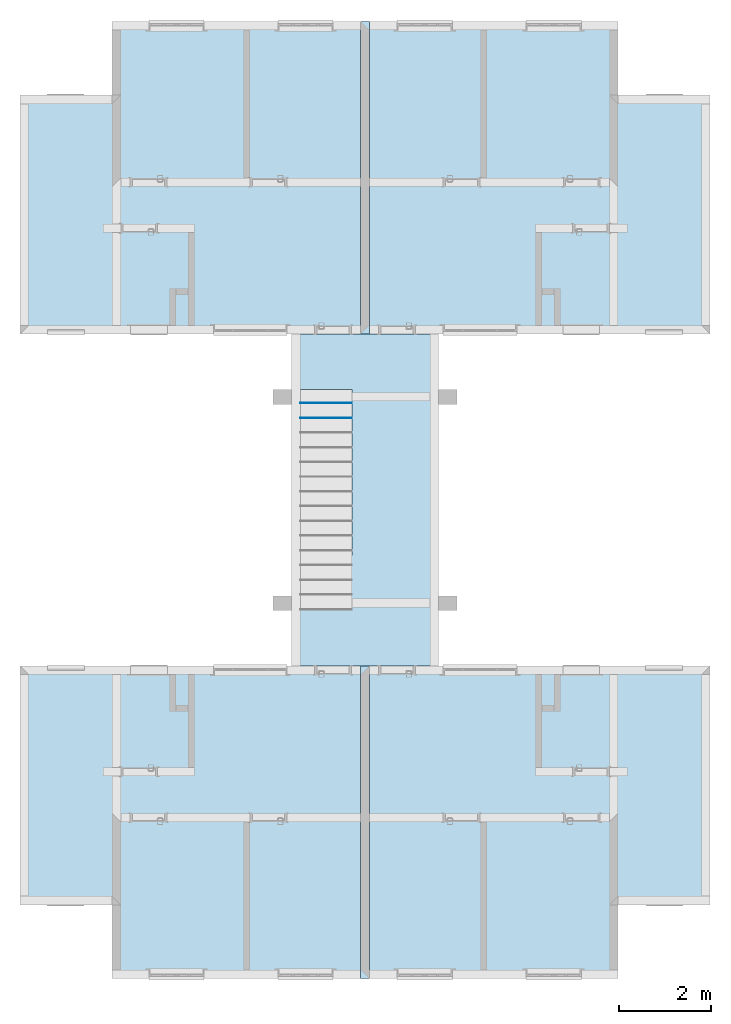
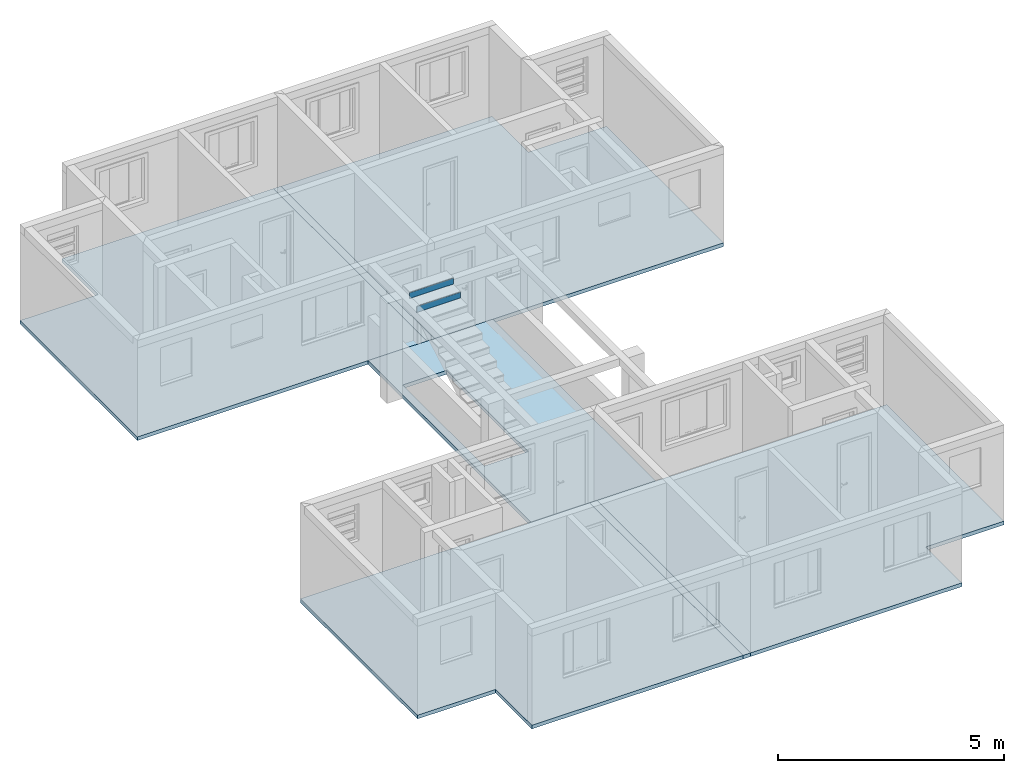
# One storey, part 2 of 47: 7 slabs, 2 members, 1 element without a shape of its own.
"""IFC2X3 building model written with IfcOpenShell, lengths in millimetres."""

from ifc_helpers import new_model, entity, si_unit, converted_unit, derived_unit, money_unit, direction, frame, origin_with_axes, place, context, subcontext, project, spatial, polyline, outline, extrude, faceted_brep, material, layer, layer_set, layer_usage, type_object, element, aggregate, save


model = new_model("IFC2X3")

# Units and contexts
model_context = context("Model", 3, precision=0.01, world=origin_with_axes(), true_north=direction((0.0, 1.0)))
body_context = subcontext(model_context, "Body", "Model", "MODEL_VIEW")
ifc_project = project(units=[si_unit("LENGTHUNIT", "METRE", prefix="MILLI"), si_unit("AREAUNIT", "SQUARE_METRE"), si_unit("VOLUMEUNIT", "CUBIC_METRE"), converted_unit("PLANEANGLEUNIT", "DEGREE", entity("IfcPlaneAngleMeasure", 0.0174532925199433), si_unit("PLANEANGLEUNIT", "RADIAN"), dimensions=[0, 0, 0, 0, 0, 0, 0]), money_unit("USD"), converted_unit("TIMEUNIT", "Year", entity("IfcTimeMeasure", 31557600.0), si_unit("TIMEUNIT", "SECOND"), dimensions=[0, 0, 1, 0, 0, 0, 0]), si_unit("MASSUNIT", "GRAM", prefix="KILO"), si_unit("THERMODYNAMICTEMPERATUREUNIT", "DEGREE_CELSIUS"), si_unit("LUMINOUSINTENSITYUNIT", "LUMEN"), si_unit("ENERGYUNIT", "JOULE", prefix="MEGA"), derived_unit("THERMALCONDUCTANCEUNIT", [(si_unit("POWERUNIT", "WATT"), 1), (si_unit("LENGTHUNIT", "METRE"), -1), (si_unit("THERMODYNAMICTEMPERATUREUNIT", "KELVIN"), -1)]), derived_unit("SPECIFICHEATCAPACITYUNIT", [(si_unit("ENERGYUNIT", "JOULE"), 1), (si_unit("MASSUNIT", "GRAM", prefix="KILO"), -1), (si_unit("THERMODYNAMICTEMPERATUREUNIT", "KELVIN"), -1)]), derived_unit("MASSDENSITYUNIT", [(si_unit("MASSUNIT", "GRAM", prefix="KILO"), 1), (si_unit("VOLUMEUNIT", "CUBIC_METRE"), -1)])], contexts=[model_context])

# Site, building, storey
site_placement = place(None, origin_with_axes())
site = spatial("IfcSite", under=ifc_project, at=site_placement, Name="Local", CompositionType="ELEMENT")
building_placement = place(site_placement, origin_with_axes())
building = spatial("IfcBuilding", under=site, at=building_placement, Name="Construção", CompositionType="ELEMENT")
storey_placement = place(building_placement, origin_with_axes())
storey = spatial("IfcBuildingStorey", under=building, at=storey_placement, Name="Pavimento Tipo", CompositionType="ELEMENT", Elevation=0.0)

# Stair, members
stair_placement = place(storey_placement, frame((-457.4330024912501, 6396.981417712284, 0.0), z_axis=(0.0, 0.0, 1.0), x_axis=(1.0, 0.0, 0.0)))
stair = element("IfcStair", 1, at=stair_placement, inside=storey, Name="Núcleo - Escada - 001", ShapeType="NOTDEFINED")
ifc_material_1 = material(Name="Madeira")
member_type = type_object("IfcMemberType", Name="IfcMember", PredefinedType="USERDEFINED")
member_1_placement = place(stair_placement, frame((560.0000000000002, 4160.0, 2495.0), z_axis=(0.0, 0.0, 1.0), x_axis=(1.0, 0.0, 0.0)))
member_1 = element("IfcMember", 2, at=member_1_placement, type_object=member_type, material=ifc_material_1, Name="Núcleo - Espelho Esc. - 017", ObjectType="Stair Riser", context=body_context, shape_type="Brep", body=[
    faceted_brep([(560.0, 15.0, 0.0), (560.0, 25.0, 0.0), (-560.0, 25.0, 0.0), (-560.0, 15.0, 0.0), (560.0, 15.00000000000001, -155.0), (560.0, 25.00000000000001, -155.0), (-560.0, 25.00000000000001, -155.0), (-560.0, 15.00000000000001, -155.0)], [[[0, 1, 2, 3]], [[0, 4, 5, 1]], [[1, 5, 6, 2]], [[3, 2, 6, 7]], [[4, 0, 3, 7]], [[5, 4, 7, 6]]]),
])
member_2_placement = place(stair_placement, frame((560.0000000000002, 4480.0, 2675.0), z_axis=(0.0, 0.0, 1.0), x_axis=(1.0, 0.0, 0.0)))
member_2 = element("IfcMember", 3, at=member_2_placement, type_object=member_type, material=ifc_material_1, Name="Núcleo - Espelho Esc. - 017", ObjectType="Stair Riser", context=body_context, shape_type="Brep", body=[
    faceted_brep([(560.0, 15.0, 0.0), (560.0, 25.0, 0.0), (-560.0, 25.0, 0.0), (-560.0, 15.0, 0.0), (560.0, 15.00000000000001, -155.0), (560.0, 25.00000000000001, -155.0), (-560.0, 25.00000000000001, -155.0), (-560.0, 15.00000000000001, -155.0)], [[[0, 1, 2, 3]], [[0, 4, 5, 1]], [[1, 5, 6, 2]], [[3, 2, 6, 7]], [[4, 0, 3, 7]], [[5, 4, 7, 6]]]),
])
aggregate(stair, [member_1, member_2])

# Slabs
ifc_material_2 = material(Name="Concreto")
ifc_layer = layer(ifc_material_2, 100.0, ventilated="UNKNOWN")
ifc_layer_set = layer_set([ifc_layer], Name="Concreto 100")
ifc_layer_usage_1 = layer_usage(ifc_layer_set, "AXIS3", "NEGATIVE", 100.0)
slab_type = type_object("IfcSlabType", Name="Concreto 100", PredefinedType="NOTDEFINED")
slab_1_placement = place(storey_placement, frame((1042.56699750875, 12396.98141771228, 0.0), z_axis=(0.0, 0.0, 1.0), x_axis=(1.0, 0.0, 0.0)))
element("IfcSlab", 4, at=slab_1_placement, inside=storey, type_object=slab_type, material=ifc_layer_usage_1, Name="Apartamento 1 - L05", PredefinedType="NOTDEFINED", context=body_context, shape_type="SweptSolid", body=[
    extrude(outline(polyline([(0.0, 0.0), (7396.450516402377, 0.0), (7396.450516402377, 5190.000047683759), (5399.999999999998, 5190.000047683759), (5399.999999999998, 6789.999958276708), (0.0, 6789.999958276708), (0.0, 0.0)])), frame((0.0, 0.0, -100.0), z_axis=(0.0, 0.0, 1.0), x_axis=(1.0, 0.0, 0.0)), (0.0, 0.0, 1.0), 100.0),
])
ifc_layer_usage_2 = layer_usage(ifc_layer_set, "AXIS3", "NEGATIVE", 100.0)
slab_2_placement = place(storey_placement, frame((852.5669975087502, 12396.98141771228, 0.0), z_axis=(0.0, 0.0, 1.0), x_axis=(1.0, 0.0, 0.0)))
element("IfcSlab", 5, at=slab_2_placement, inside=storey, type_object=slab_type, material=ifc_layer_usage_2, Name="Apartamentos 1 e 2 - L03", PredefinedType="NOTDEFINED", context=body_context, shape_type="SweptSolid", body=[
    extrude(outline(polyline([(0.0, 0.0), (189.9999999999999, 0.0), (189.9999999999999, 6789.999999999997), (0.0, 6789.999999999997), (0.0, 0.0)])), frame((0.0, 0.0, -100.0), z_axis=(0.0, 0.0, 1.0), x_axis=(1.0, 0.0, 0.0)), (0.0, 0.0, 1.0), 100.0),
])
ifc_layer_usage_3 = layer_usage(ifc_layer_set, "AXIS3", "NEGATIVE", 100.0)
slab_3_placement = place(storey_placement, frame((852.5669975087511, 12396.98141771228, 0.0), z_axis=(0.0, 0.0, 1.0), x_axis=(1.0, 0.0, 0.0)))
element("IfcSlab", 6, at=slab_3_placement, inside=storey, type_object=slab_type, material=ifc_layer_usage_3, Name="Apartamento 2 - L05", PredefinedType="NOTDEFINED", context=body_context, shape_type="SweptSolid", body=[
    extrude(outline(polyline([(0.0, 0.0), (0.0, 6789.999958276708), (-5399.999999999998, 6789.999958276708), (-5399.999999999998, 5190.000047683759), (-7396.450516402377, 5190.000047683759), (-7396.450516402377, 0.0), (0.0, 0.0)])), frame((0.0, 0.0, -100.0), z_axis=(0.0, 0.0, 1.0), x_axis=(1.0, 0.0, 0.0)), (0.0, 0.0, 1.0), 100.0),
])
ifc_layer_usage_4 = layer_usage(ifc_layer_set, "AXIS3", "NEGATIVE", 100.0)
slab_4_placement = place(storey_placement, frame((852.5669975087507, 5186.981417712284, 0.0), z_axis=(0.0, 0.0, 1.0), x_axis=(1.0, 0.0, 0.0)))
element("IfcSlab", 7, at=slab_4_placement, inside=storey, type_object=slab_type, material=ifc_layer_usage_4, Name="Apartamento 3 - L05", PredefinedType="NOTDEFINED", context=body_context, shape_type="SweptSolid", body=[
    extrude(outline(polyline([(0.0, 0.0), (-7396.450516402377, 0.0), (-7396.450516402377, -5190.000047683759), (-5399.999999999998, -5190.000047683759), (-5399.999999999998, -6789.999958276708), (0.0, -6789.999958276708), (0.0, 0.0)])), frame((0.0, 0.0, -100.0), z_axis=(0.0, 0.0, 1.0), x_axis=(1.0, 0.0, 0.0)), (0.0, 0.0, 1.0), 100.0),
])
ifc_layer_usage_5 = layer_usage(ifc_layer_set, "AXIS3", "NEGATIVE", 100.0)
slab_5_placement = place(storey_placement, frame((1042.56699750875, 5186.981417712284, 0.0), z_axis=(0.0, 0.0, 1.0), x_axis=(1.0, 0.0, 0.0)))
element("IfcSlab", 8, at=slab_5_placement, inside=storey, type_object=slab_type, material=ifc_layer_usage_5, Name="Apartamento 4 - L05", PredefinedType="NOTDEFINED", context=body_context, shape_type="SweptSolid", body=[
    extrude(outline(polyline([(0.0, 0.0), (0.0, -6789.999958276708), (5399.999999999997, -6789.999958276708), (5399.999999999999, -5190.000047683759), (7396.450516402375, -5190.000047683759), (7396.450516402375, 0.0), (0.0, 0.0)])), frame((0.0, 0.0, -100.0), z_axis=(0.0, 0.0, 1.0), x_axis=(1.0, 0.0, 0.0)), (0.0, 0.0, 1.0), 100.0),
])
ifc_layer_usage_6 = layer_usage(ifc_layer_set, "AXIS3", "NEGATIVE", 100.0)
slab_6_placement = place(storey_placement, frame((1042.566997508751, 5186.981417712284, 0.0), z_axis=(0.0, 0.0, 1.0), x_axis=(1.0, 0.0, 0.0)))
element("IfcSlab", 9, at=slab_6_placement, inside=storey, type_object=slab_type, material=ifc_layer_usage_6, Name="Apartamentos 3 e 4 - L03", PredefinedType="NOTDEFINED", context=body_context, shape_type="SweptSolid", body=[
    extrude(outline(polyline([(0.0, 0.0), (-189.9999999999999, 0.0), (-190.0000000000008, -6789.999999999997), (0.0, -6789.999999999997), (0.0, 0.0)])), frame((0.0, 0.0, -100.0), z_axis=(0.0, 0.0, 1.0), x_axis=(1.0, 0.0, 0.0)), (0.0, 0.0, 1.0), 100.0),
])
ifc_layer_usage_7 = layer_usage(ifc_layer_set, "AXIS3", "NEGATIVE", 100.0)
slab_7_placement = place(storey_placement, frame((-647.4330024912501, 5186.981417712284, 0.0), z_axis=(0.0, 0.0, 1.0), x_axis=(1.0, 0.0, 0.0)))
element("IfcSlab", 10, at=slab_7_placement, inside=storey, type_object=slab_type, material=ifc_layer_usage_7, Name="Núcleo - L05", PredefinedType="NOTDEFINED", context=body_context, shape_type="SweptSolid", body=[
    extrude(outline(polyline([(0.0, 0.0), (3190.0, 0.0), (3190.0, 7210.0), (0.0, 7210.0), (0.0, 0.0)]), holes=[polyline([(1310.0, 2400.000000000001), (190.0000000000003, 2400.000000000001), (190.0000000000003, 6009.999999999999), (1310.0, 6009.999999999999), (1310.0, 2400.000000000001)])]), frame((0.0, 0.0, -100.0), z_axis=(0.0, 0.0, 1.0), x_axis=(1.0, 0.0, 0.0)), (0.0, 0.0, 1.0), 100.0),
])

save(model, "model.ifc")
